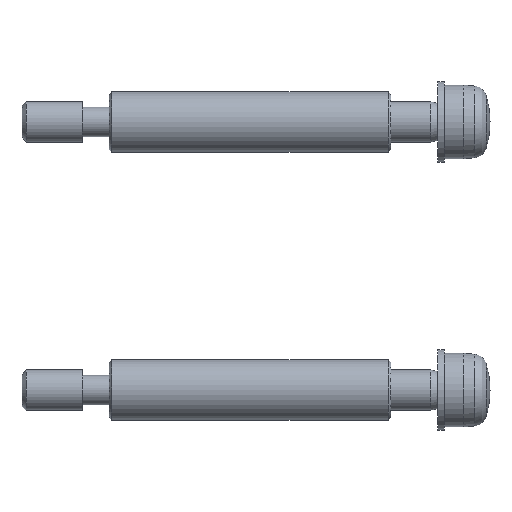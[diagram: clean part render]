
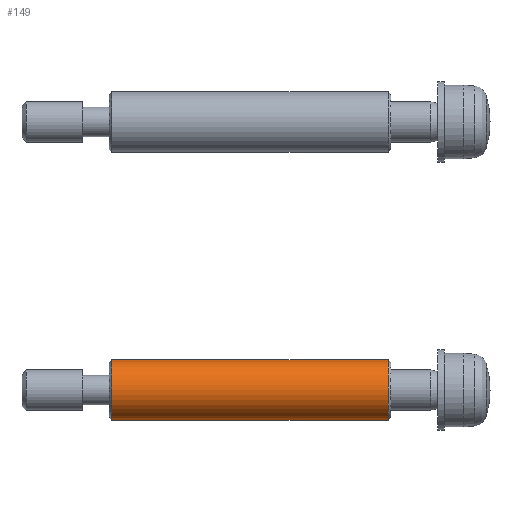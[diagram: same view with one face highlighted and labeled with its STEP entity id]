
A CAD part, front view. The second image highlights one B-rep face of the part: STEP entity #149.
In plain terms, the highlighted cylindrical face has radius 2.25 mm (diameter 4.5 mm), a partial arc.
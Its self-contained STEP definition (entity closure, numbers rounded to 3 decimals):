
#149=ADVANCED_FACE('',(#372),#371,.T.);
#371=CYLINDRICAL_SURFACE('',#816,2.25);
#372=FACE_OUTER_BOUND('',#817,.T.);
#813=CARTESIAN_POINT('',(0.,0.,0.));
#814=DIRECTION('',(1.,0.,0.));
#815=DIRECTION('',(0.,0.,1.));
#816=AXIS2_PLACEMENT_3D('',#813,#814,#815);
#817=EDGE_LOOP('',(#1094,#1095,#1096,#1097));
#1094=ORIENTED_EDGE('',*,*,#1243,.T.);
#1095=ORIENTED_EDGE('',*,*,#1244,.F.);
#1096=ORIENTED_EDGE('',*,*,#1239,.T.);
#1097=ORIENTED_EDGE('',*,*,#1245,.T.);
#1239=EDGE_CURVE('',#1522,#1521,#1541,.T.);
#1243=EDGE_CURVE('',#1548,#1547,#1567,.T.);
#1244=EDGE_CURVE('',#1522,#1547,#1573,.T.);
#1245=EDGE_CURVE('',#1521,#1548,#1579,.T.);
#1521=VERTEX_POINT('',#2027);
#1522=VERTEX_POINT('',#2028);
#1541=CIRCLE('',#2040,2.25);
#1547=VERTEX_POINT('',#2041);
#1548=VERTEX_POINT('',#2042);
#1567=CIRCLE('',#2054,2.25);
#1573=(BOUNDED_CURVE() B_SPLINE_CURVE(1,(#2055,#2056),.UNSPECIFIED.,.F.,.F.) B_SPLINE_CURVE_WITH_KNOTS((2,2),(0.083,0.917),.UNSPECIFIED.) CURVE() GEOMETRIC_REPRESENTATION_ITEM() RATIONAL_B_SPLINE_CURVE((1.,1.)) REPRESENTATION_ITEM('') );
#1579=(BOUNDED_CURVE() B_SPLINE_CURVE(1,(#2057,#2058),.UNSPECIFIED.,.F.,.F.) B_SPLINE_CURVE_WITH_KNOTS((2,2),(0.083,0.917),.UNSPECIFIED.) CURVE() GEOMETRIC_REPRESENTATION_ITEM() RATIONAL_B_SPLINE_CURVE((0.75,0.75)) REPRESENTATION_ITEM('') );
#2027=CARTESIAN_POINT('',(0.2,0.,-2.25));
#2028=CARTESIAN_POINT('',(0.2,0.,2.25));
#2037=CARTESIAN_POINT('',(0.2,0.,0.));
#2038=DIRECTION('',(1.,0.,0.));
#2039=DIRECTION('',(0.,0.,1.));
#2040=AXIS2_PLACEMENT_3D('',#2037,#2038,#2039);
#2041=CARTESIAN_POINT('',(20.8,0.,2.25));
#2042=CARTESIAN_POINT('',(20.8,0.,-2.25));
#2051=CARTESIAN_POINT('',(20.8,0.,0.));
#2052=DIRECTION('',(-1.,0.,0.));
#2053=DIRECTION('',(0.,0.,-1.));
#2054=AXIS2_PLACEMENT_3D('',#2051,#2052,#2053);
#2055=CARTESIAN_POINT('',(0.2,0.,2.25));
#2056=CARTESIAN_POINT('',(20.8,0.,2.25));
#2057=CARTESIAN_POINT('',(0.2,0.,-2.25));
#2058=CARTESIAN_POINT('',(20.8,0.,-2.25));
